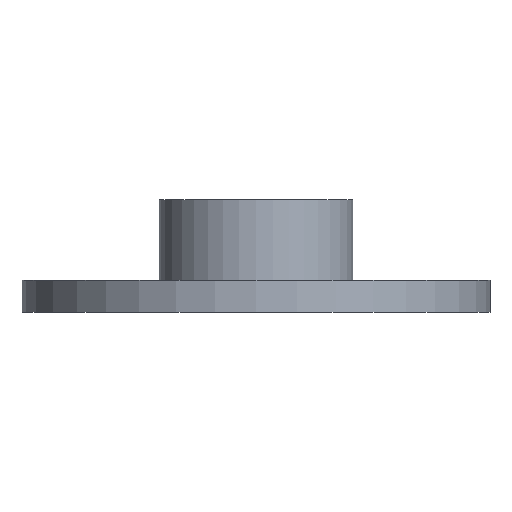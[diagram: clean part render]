
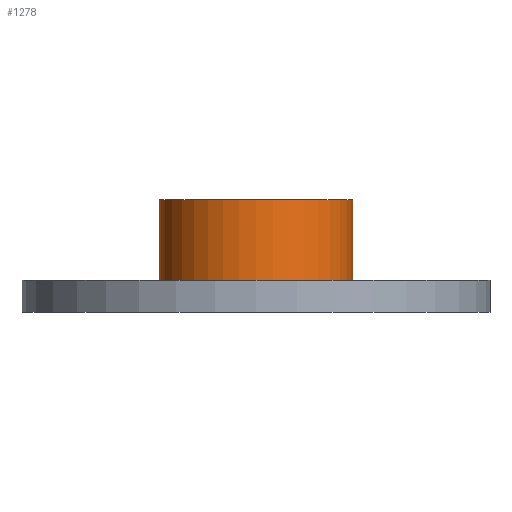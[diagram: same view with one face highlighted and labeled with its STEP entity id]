
A CAD part, front view. The second image highlights one B-rep face of the part: STEP entity #1278.
In plain terms, the highlighted cylindrical face has radius 12 mm (diameter 24 mm), a full revolution.
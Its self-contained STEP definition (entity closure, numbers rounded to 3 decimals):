
#66 = PLANE('',#67);
#67 = AXIS2_PLACEMENT_3D('',#68,#69,#70);
#68 = CARTESIAN_POINT('',(0.,0.,4.));
#69 = DIRECTION('',(0.,0.,1.));
#70 = DIRECTION('',(1.,0.,-0.));
#621 = EDGE_CURVE('',#622,#622,#624,.T.);
#622 = VERTEX_POINT('',#623);
#623 = CARTESIAN_POINT('',(12.,0.,4.));
#624 = SURFACE_CURVE('',#625,(#630,#637),.PCURVE_S1.);
#625 = CIRCLE('',#626,12.);
#626 = AXIS2_PLACEMENT_3D('',#627,#628,#629);
#627 = CARTESIAN_POINT('',(0.,0.,4.));
#628 = DIRECTION('',(0.,0.,1.));
#629 = DIRECTION('',(1.,0.,0.));
#630 = PCURVE('',#66,#631);
#631 = DEFINITIONAL_REPRESENTATION('',(#632),#636);
#632 = CIRCLE('',#633,12.);
#633 = AXIS2_PLACEMENT_2D('',#634,#635);
#634 = CARTESIAN_POINT('',(0.,0.));
#635 = DIRECTION('',(1.,0.));
#636 = ( GEOMETRIC_REPRESENTATION_CONTEXT(2) 
PARAMETRIC_REPRESENTATION_CONTEXT() REPRESENTATION_CONTEXT('2D SPACE',''
  ) );
#637 = PCURVE('',#638,#643);
#638 = CYLINDRICAL_SURFACE('',#639,12.);
#639 = AXIS2_PLACEMENT_3D('',#640,#641,#642);
#640 = CARTESIAN_POINT('',(0.,0.,4.));
#641 = DIRECTION('',(-0.,-0.,-1.));
#642 = DIRECTION('',(1.,0.,0.));
#643 = DEFINITIONAL_REPRESENTATION('',(#644),#648);
#644 = LINE('',#645,#646);
#645 = CARTESIAN_POINT('',(-0.,0.));
#646 = VECTOR('',#647,1.);
#647 = DIRECTION('',(-1.,0.));
#648 = ( GEOMETRIC_REPRESENTATION_CONTEXT(2) 
PARAMETRIC_REPRESENTATION_CONTEXT() REPRESENTATION_CONTEXT('2D SPACE',''
  ) );
#1039 = PLANE('',#1040);
#1040 = AXIS2_PLACEMENT_3D('',#1041,#1042,#1043);
#1041 = CARTESIAN_POINT('',(0.,0.,14.)
  );
#1042 = DIRECTION('',(0.,0.,1.));
#1043 = DIRECTION('',(1.,0.,-0.));
#1278 = ADVANCED_FACE('',(#1279),#638,.T.);
#1279 = FACE_BOUND('',#1280,.F.);
#1280 = EDGE_LOOP('',(#1281,#1304,#1326,#1327));
#1281 = ORIENTED_EDGE('',*,*,#1282,.T.);
#1282 = EDGE_CURVE('',#622,#1283,#1285,.T.);
#1283 = VERTEX_POINT('',#1284);
#1284 = CARTESIAN_POINT('',(12.,0.,14.));
#1285 = SEAM_CURVE('',#1286,(#1290,#1297),.PCURVE_S1.);
#1286 = LINE('',#1287,#1288);
#1287 = CARTESIAN_POINT('',(12.,0.,4.));
#1288 = VECTOR('',#1289,1.);
#1289 = DIRECTION('',(0.,0.,1.));
#1290 = PCURVE('',#638,#1291);
#1291 = DEFINITIONAL_REPRESENTATION('',(#1292),#1296);
#1292 = LINE('',#1293,#1294);
#1293 = CARTESIAN_POINT('',(-0.,0.));
#1294 = VECTOR('',#1295,1.);
#1295 = DIRECTION('',(-0.,-1.));
#1296 = ( GEOMETRIC_REPRESENTATION_CONTEXT(2) 
PARAMETRIC_REPRESENTATION_CONTEXT() REPRESENTATION_CONTEXT('2D SPACE',''
  ) );
#1297 = PCURVE('',#638,#1298);
#1298 = DEFINITIONAL_REPRESENTATION('',(#1299),#1303);
#1299 = LINE('',#1300,#1301);
#1300 = CARTESIAN_POINT('',(-6.283,0.));
#1301 = VECTOR('',#1302,1.);
#1302 = DIRECTION('',(-0.,-1.));
#1303 = ( GEOMETRIC_REPRESENTATION_CONTEXT(2) 
PARAMETRIC_REPRESENTATION_CONTEXT() REPRESENTATION_CONTEXT('2D SPACE',''
  ) );
#1304 = ORIENTED_EDGE('',*,*,#1305,.T.);
#1305 = EDGE_CURVE('',#1283,#1283,#1306,.T.);
#1306 = SURFACE_CURVE('',#1307,(#1312,#1319),.PCURVE_S1.);
#1307 = CIRCLE('',#1308,12.);
#1308 = AXIS2_PLACEMENT_3D('',#1309,#1310,#1311);
#1309 = CARTESIAN_POINT('',(0.,0.,14.));
#1310 = DIRECTION('',(0.,0.,1.));
#1311 = DIRECTION('',(1.,0.,0.));
#1312 = PCURVE('',#638,#1313);
#1313 = DEFINITIONAL_REPRESENTATION('',(#1314),#1318);
#1314 = LINE('',#1315,#1316);
#1315 = CARTESIAN_POINT('',(-0.,-10.));
#1316 = VECTOR('',#1317,1.);
#1317 = DIRECTION('',(-1.,0.));
#1318 = ( GEOMETRIC_REPRESENTATION_CONTEXT(2) 
PARAMETRIC_REPRESENTATION_CONTEXT() REPRESENTATION_CONTEXT('2D SPACE',''
  ) );
#1319 = PCURVE('',#1039,#1320);
#1320 = DEFINITIONAL_REPRESENTATION('',(#1321),#1325);
#1321 = CIRCLE('',#1322,12.);
#1322 = AXIS2_PLACEMENT_2D('',#1323,#1324);
#1323 = CARTESIAN_POINT('',(0.,0.));
#1324 = DIRECTION('',(1.,0.));
#1325 = ( GEOMETRIC_REPRESENTATION_CONTEXT(2) 
PARAMETRIC_REPRESENTATION_CONTEXT() REPRESENTATION_CONTEXT('2D SPACE',''
  ) );
#1326 = ORIENTED_EDGE('',*,*,#1282,.F.);
#1327 = ORIENTED_EDGE('',*,*,#621,.F.);
